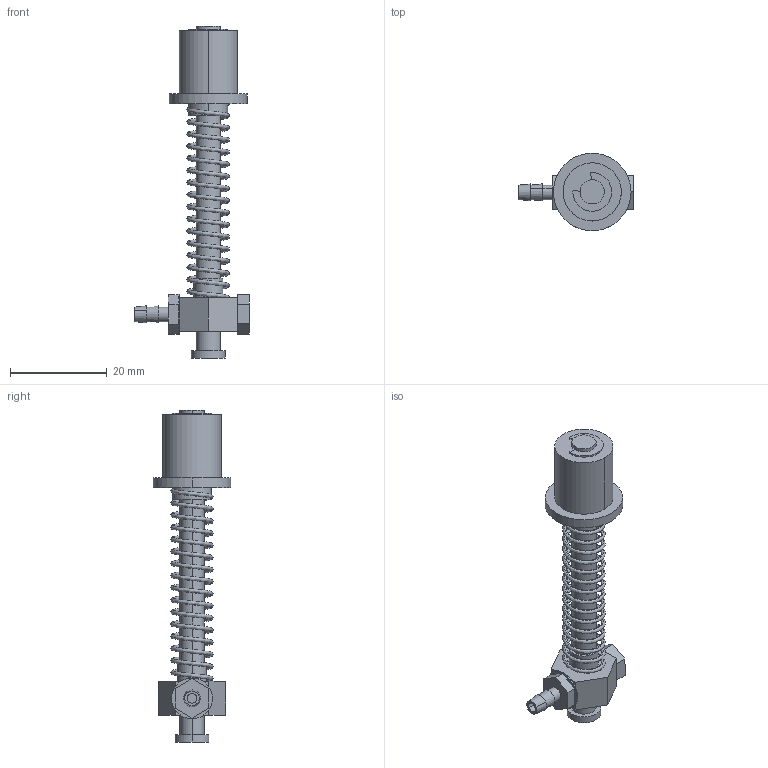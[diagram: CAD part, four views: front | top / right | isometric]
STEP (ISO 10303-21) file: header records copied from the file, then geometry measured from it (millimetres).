
FILE_DESCRIPTION (( 'STEP AP214' ), '1' );
FILE_NAME ('VFS-3012.STEP', '2019-11-16T01:06:09', ( '微软用户' ), ( '微软中国' ), 'SwSTEP 2.0', 'SolidWorks 2016', '' );
FILE_SCHEMA (( 'AUTOMOTIVE_DESIGN' ));
Length unit declared in the file: millimetre
Products named in the file (1): VFS-3012
Bounding box: 23.7 x 16 x 68.5 mm (x, y, z)
Volume: 4080.9 mm3; surface area: 4843.4 mm2
Topology: 8 solids, 8 shells, 131 faces, 305 edges, 202 vertices
Faces by surface type: cylinder 66, plane 54, bspline 7, cone 4
Entity records: 11382 total; most frequent: CARTESIAN_POINT 6936, ORIENTED_EDGE 610, DIRECTION 579, EDGE_CURVE 305, AXIS2_PLACEMENT_3D 217, VERTEX_POINT 202, EDGE_LOOP 153, LINE 145
